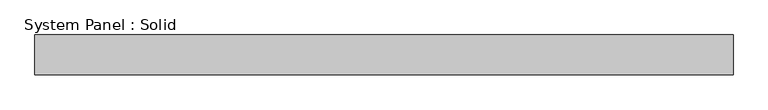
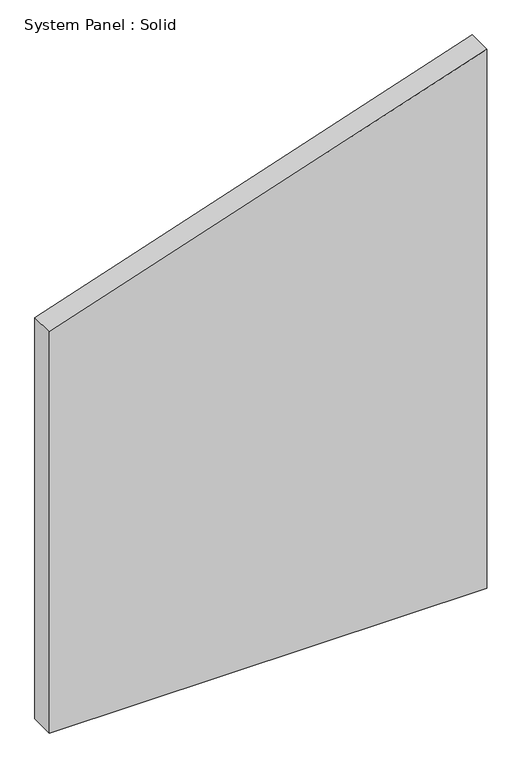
"""IFC4 building model written with IfcOpenShell, lengths in millimetres: plate geometry, System Panel : Solid."""

import ifcopenshell
import ifcopenshell.guid

model = None  # the IFC model being written
_history = None  # IfcOwnerHistory: only IFC2X3 demands one
_inside = {}  # id of a spatial element -> (the spatial element, [elements in it])
_under = {}  # id of a project, library or spatial element -> (it, [spatial elements below it])
_declared = {}  # id of a project -> (the project, [libraries it declares])
_typed = {}  # id of a type object -> (the type object, [elements of that type])
_made_of = {}  # id of a material, layer set ... -> (it, [elements and type objects made of it])


def new_model(schema):
    """Start an empty IFC model of exactly this schema.

    Asked for "IFC4X3", IfcOpenShell would pick the latest addendum, in which some entities
    have other attributes; the version numbers below select the first issue.
    IFC2X3 requires an IfcOwnerHistory on every rooted entity: one is made here for all.
    """
    global model, _history
    if schema == "IFC4X3":
        model = ifcopenshell.file(schema_version=(4, 3, 0, 0))
    else:
        model = ifcopenshell.file(schema=schema)
    _inside.clear()
    _under.clear()
    _declared.clear()
    _typed.clear()
    _made_of.clear()
    _history = None
    if model.schema == "IFC2X3":
        org = make("IfcOrganization", Name="unknown")
        user = make(
            "IfcPersonAndOrganization",
            ThePerson=make("IfcPerson", FamilyName="unknown"),
            TheOrganization=org,
        )
        app = make(
            "IfcApplication",
            ApplicationDeveloper=org,
            Version="unknown",
            ApplicationFullName="unknown",
            ApplicationIdentifier="unknown",
        )
        _history = make(
            "IfcOwnerHistory",
            OwningUser=user,
            OwningApplication=app,
            ChangeAction="ADDED",
            CreationDate=0,
        )
    return model


def make(cls, **values):
    """One entity of the class cls with the attributes given. An attribute that is None is left unset."""
    return model.create_entity(
        cls, **{name: value for name, value in values.items() if value is not None}
    )


def rooted(cls, **values):
    """An entity with a GlobalId (a new one), such as an element, a storey or a relation."""
    return make(cls, GlobalId=ifcopenshell.guid.new(), OwnerHistory=_history, **values)


def si_unit(unit_type, name, prefix=None):
    """IfcSIUnit, for example si_unit("LENGTHUNIT", "METRE", prefix="MILLI")."""
    return make("IfcSIUnit", UnitType=unit_type, Prefix=prefix, Name=name)


def assignment(units):
    """IfcUnitAssignment: the units of a project."""
    return None if units is None else make("IfcUnitAssignment", Units=units)


def point(xyz):
    """IfcCartesianPoint."""
    return None if xyz is None else make("IfcCartesianPoint", Coordinates=xyz)


def direction(xyz):
    """IfcDirection."""
    return None if xyz is None else make("IfcDirection", DirectionRatios=xyz)


def frame(location, z_axis=None, x_axis=None):
    """IfcAxis2Placement3D, a coordinate frame: its origin and axes. An axis left out is left unset."""
    return make(
        "IfcAxis2Placement3D",
        Location=point(location),
        Axis=direction(z_axis),
        RefDirection=direction(x_axis),
    )


def origin():
    """The frame at (0, 0, 0) with its axes left unset."""
    return frame((0.0, 0.0, 0.0))


def place(relative_to, where):
    """IfcLocalPlacement: puts the frame where relative to a parent placement (None: the world)."""
    return make(
        "IfcLocalPlacement", PlacementRelTo=relative_to, RelativePlacement=where
    )


def context(
    kind, dimensions, precision=None, world=None, true_north=None, identifier=None
):
    """IfcGeometricRepresentationContext, for example the 3D "Model" context."""
    return make(
        "IfcGeometricRepresentationContext",
        ContextIdentifier=identifier,
        ContextType=kind,
        CoordinateSpaceDimension=dimensions,
        Precision=precision,
        WorldCoordinateSystem=world,
        TrueNorth=true_north,
    )


def project(units=None, contexts=None):
    """IfcProject with its units and contexts."""
    return rooted(
        "IfcProject",
        Name="project",
        RepresentationContexts=contexts,
        UnitsInContext=assignment(units),
    )


def spatial(cls, under=None, at=None, **own):
    """A site, building, storey or space (cls), placed at a placement, below another one or the project."""
    s = rooted(cls, ObjectPlacement=at, **own)
    if under is not None:
        _under.setdefault(under.id(), (under, []))[1].append(s)
    return s


def polyline(points):
    """IfcPolyline through the points."""
    return make("IfcPolyline", Points=[point(p) for p in points])


def outline(outer, holes=None, kind="AREA"):
    """IfcArbitraryClosedProfileDef: a profile drawn as a closed curve; with holes, ...WithVoids."""
    if holes is None:
        return make("IfcArbitraryClosedProfileDef", ProfileType=kind, OuterCurve=outer)
    return make(
        "IfcArbitraryProfileDefWithVoids",
        ProfileType=kind,
        OuterCurve=outer,
        InnerCurves=holes,
    )


def extrude(swept, where, along, depth):
    """IfcExtrudedAreaSolid: the profile swept, set in the frame where, extruded along a direction by depth."""
    return make(
        "IfcExtrudedAreaSolid",
        SweptArea=swept,
        Position=where,
        ExtrudedDirection=direction(along),
        Depth=depth,
    )


def shape(context_of_items, identifier, shape_type, items):
    """IfcShapeRepresentation: the items that make up one representation, for example the "Body"."""
    return make(
        "IfcShapeRepresentation",
        ContextOfItems=context_of_items,
        RepresentationIdentifier=identifier,
        RepresentationType=shape_type,
        Items=items,
    )


def source(mapping_origin, context_of_items, identifier, shape_type, items):
    """IfcRepresentationMap: a shape defined once, which mapped items show again and again."""
    return make(
        "IfcRepresentationMap",
        MappingOrigin=mapping_origin,
        MappedRepresentation=shape(context_of_items, identifier, shape_type, items),
    )


def transform(
    local_origin,
    x_axis=None,
    y_axis=None,
    z_axis=None,
    scale=None,
    scale2=None,
    scale3=None,
    uniform=True,
):
    """IfcCartesianTransformationOperator3D, or its non-uniform kind. x_axis, y_axis, z_axis: its Axis1, 2, 3."""
    if uniform:
        return make(
            "IfcCartesianTransformationOperator3D",
            Axis1=direction(x_axis),
            Axis2=direction(y_axis),
            LocalOrigin=point(local_origin),
            Scale=scale,
            Axis3=direction(z_axis),
        )
    return make(
        "IfcCartesianTransformationOperator3DnonUniform",
        Axis1=direction(x_axis),
        Axis2=direction(y_axis),
        LocalOrigin=point(local_origin),
        Scale=scale,
        Axis3=direction(z_axis),
        Scale2=scale2,
        Scale3=scale3,
    )


def mapped(mapping_source, mapping_target):
    """IfcMappedItem: shows the shape of a source again, moved by a transform."""
    return make(
        "IfcMappedItem", MappingSource=mapping_source, MappingTarget=mapping_target
    )


def made_of(thing, what):
    """Note that an element or type object is made of a material, layer set ...; save() writes the relation."""
    if what is not None:
        _made_of.setdefault(what.id(), (what, []))[1].append(thing)
    return thing


def element(
    cls,
    number,
    at=None,
    inside=None,
    cuts=None,
    type_object=None,
    material=None,
    context=None,
    identifier="Body",
    shape_type=None,
    held_by="IfcProductDefinitionShape",
    body=None,
    shapes=None,
    **own,
):
    """One element of the class cls, such as IfcWall. Its Tag is "e" and its number.

    at: its placement. inside: the storey or other place that contains it. cuts: it is an
    opening in that element (IfcRelVoidsElement). A single representation is given by context,
    identifier, shape_type and body (its items); several are given by shapes. held_by: the class
    of the entity that holds the representations. save() writes the other relations.
    """
    e = rooted(cls, Tag="e%d" % number, ObjectPlacement=at, **own)
    if body is not None:
        shapes = [shape(context, identifier, shape_type, body)]
    if shapes is not None:
        e.Representation = make(held_by, Representations=shapes)
    if inside is not None:
        _inside.setdefault(inside.id(), (inside, []))[1].append(e)
    if cuts is not None:
        rooted(
            "IfcRelVoidsElement", RelatingBuildingElement=cuts, RelatedOpeningElement=e
        )
    if type_object is not None:
        _typed.setdefault(type_object.id(), (type_object, []))[1].append(e)
    return made_of(e, material)


def aggregate(whole, parts):
    """IfcRelAggregates: a whole, such as a stair, and the parts it consists of."""
    return rooted("IfcRelAggregates", RelatingObject=whole, RelatedObjects=parts)


def save(model, path):
    """Write the relations noted so far, then the file.

    IfcRelAggregates (storeys below a building ...), IfcRelContainedInSpatialStructure (elements
    in a storey), IfcRelDefinesByType, IfcRelAssociatesMaterial and IfcRelDeclares: one each for
    every whole, place, type object, material and project.
    """
    for whole, parts in _under.values():
        aggregate(whole, parts)
    for where, things in _inside.values():
        rooted(
            "IfcRelContainedInSpatialStructure",
            RelatedElements=things,
            RelatingStructure=where,
        )
    for kind, things in _typed.values():
        rooted("IfcRelDefinesByType", RelatedObjects=things, RelatingType=kind)
    for what, things in _made_of.values():
        rooted("IfcRelAssociatesMaterial", RelatedObjects=things, RelatingMaterial=what)
    for by, libraries in _declared.values():
        rooted("IfcRelDeclares", RelatingContext=by, RelatedDefinitions=libraries)
    model.write(path)


def system_panel_solid_a0329afc(model_context):
    return source(origin(), model_context, "Body", "SweptSolid", [
        extrude(outline(polyline([(0.0, -557.2124998), (0.0, 557.2124998), (1452.0890737, 557.2124998), (1080.6140738, -557.2124998), (0.0, -557.2124998)])), frame((0.0, -19.05, 0.0), z_axis=(0.0, 1.0, 0.0), x_axis=(0.0, 0.0, 1.0)), (0.0, 0.0, 1.0), 63.5),
    ])


if __name__ == "__main__":
    model = new_model("IFC4")
    model_context = context("Model", 3, world=origin())
    ifc_project = project(units=[si_unit("LENGTHUNIT", "METRE", prefix="MILLI")], contexts=[model_context])
    site = spatial("IfcSite", under=ifc_project)
    building = spatial("IfcBuilding", under=site)
    placement = place(None, origin())
    system_panel_solid_shape = system_panel_solid_a0329afc(model_context)
    element("IfcPlate", 1, ObjectType="System Panel : Solid", at=placement, inside=building, context=model_context, shape_type="MappedRepresentation", body=[
        mapped(system_panel_solid_shape, transform((0.0, 0.0, 0.0), x_axis=(1.0, 0.0, 0.0), y_axis=(0.0, 1.0, 0.0), z_axis=(0.0, 0.0, 1.0))),
    ])
    save(model, "model.ifc")
